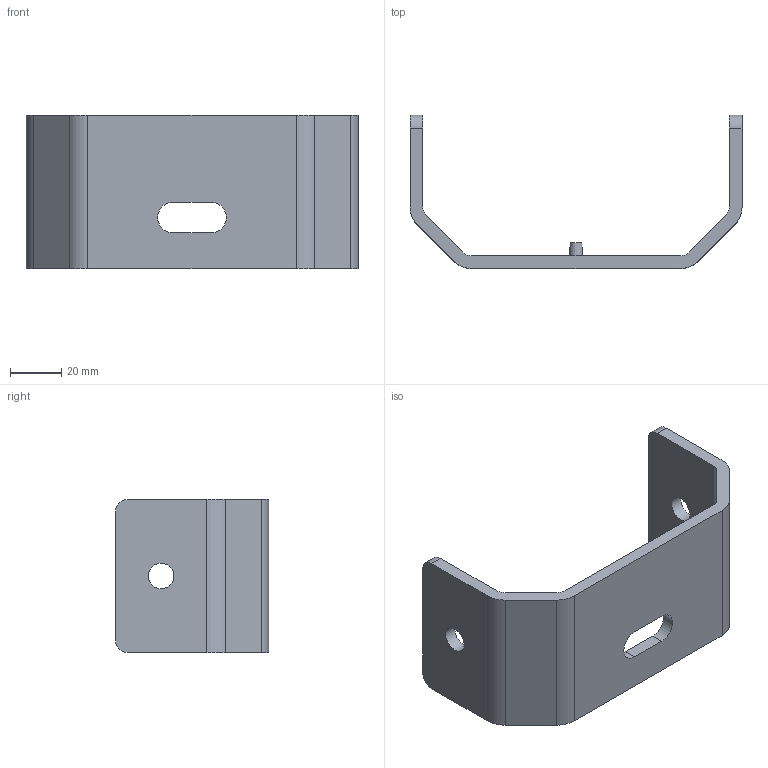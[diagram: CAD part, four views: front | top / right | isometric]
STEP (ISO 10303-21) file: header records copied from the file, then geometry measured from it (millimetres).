
FILE_DESCRIPTION(/* description */ (''),/* implementation_level */ '2;1');
FILE_NAME(/* name */ 'C:\Zbiór ćwiczeń AI 2015 I ROB\R5 Cz\X2\0119015B\X0\ci\Elementy\Bezpośrednio_1.stp',/* time_stamp */ '2015-03-27T00:22:08+01:00',/* author */ ('Fabian'),/* organization */ (''),/* preprocessor_version */ 'ST-DEVELOPER v15.6',/* originating_system */ 'Autodesk Inventor 2015',/* authorisation */ '');
FILE_SCHEMA (('AUTOMOTIVE_DESIGN { 1 0 10303 214 3 1 1 }'));
Length unit declared in the file: millimetre
Products named in the file (1): Bezpośrednio_1
Bounding box: 130 x 60 x 60 mm (x, y, z)
Volume: 63188.3 mm3; surface area: 28691.1 mm2
Topology: 1 solids, 1 shells, 37 faces, 102 edges, 68 vertices
Faces by surface type: plane 19, cylinder 16, cone 2
Full cylindrical faces by diameter (mm): 10 x2
Entity records: 1218 total; most frequent: DIRECTION 212, CARTESIAN_POINT 206, ORIENTED_EDGE 200, EDGE_CURVE 100, AXIS2_PLACEMENT_3D 74, VERTEX_POINT 68, LINE 64, VECTOR 64
